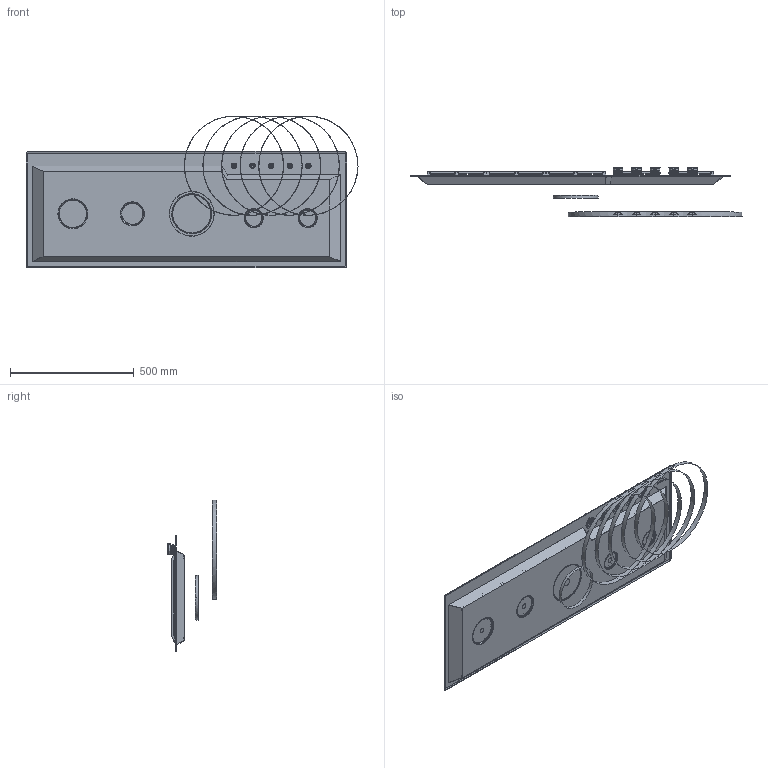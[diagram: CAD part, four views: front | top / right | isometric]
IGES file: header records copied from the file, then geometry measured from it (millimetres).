
Start section: SolidWorks IGES file using analytic representation for surfaces
Global section: file name: C:\Documents and Settings\s.benelli\Desktop\01 DOIMO\7628 032.IGS; native system: SolidWorks 2009; preprocessor: SolidWorks 2009; author: s.benelli; date: 131125.115041; units: millimetre
Bounding box: 1339.67 x 200.32 x 613 mm (x, y, z)
Surface area: 1971563.8 mm2 (no closed solid volume)
Topology: 0 solids, 0 shells, 2794 faces, 26759 edges, 26730 vertices
Faces by surface type: revolution 1411, bspline 1383
